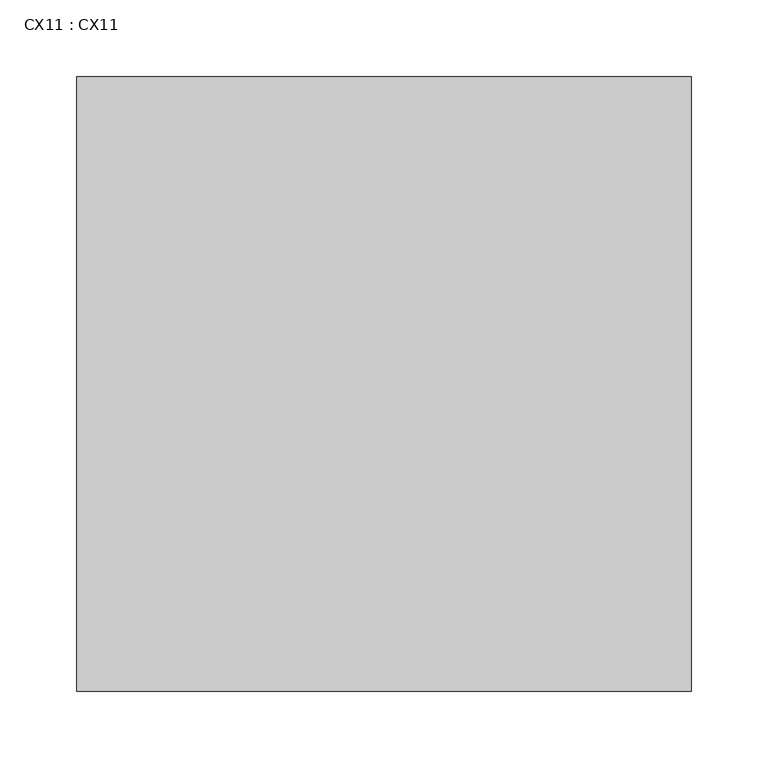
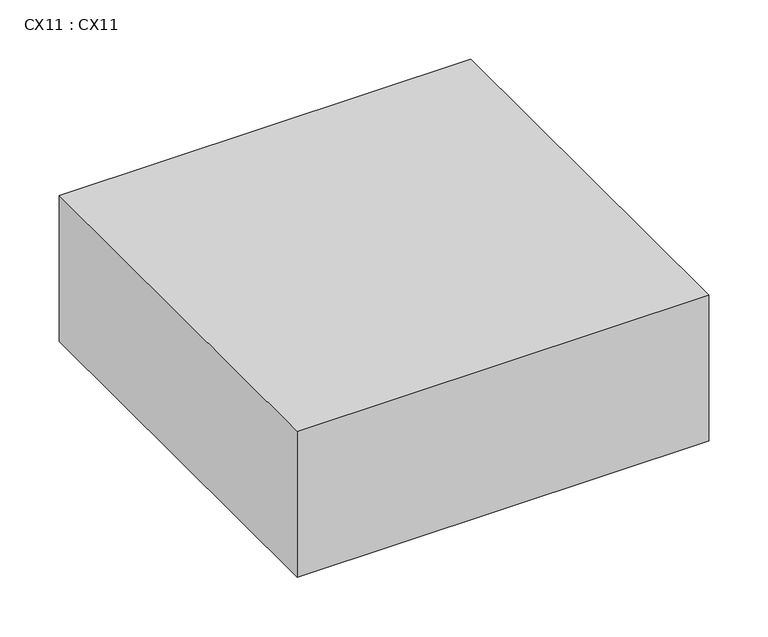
"""IFC4 building model written with IfcOpenShell, lengths in millimetres: proxy geometry, CX11 : CX11."""

from ifc_helpers import new_model, si_unit, frame, origin, place, context, project, spatial, polyline, outline, extrude, source, transform, mapped, element, save


def cx11_cx11_a36032b0(model_context):
    return source(origin(), model_context, "Body", "SweptSolid", [
        extrude(outline(polyline([(18401.7, 14966.3), (18801.7, 14966.3), (18801.7, 14566.3), (18401.7, 14566.3), (18401.7, 14966.3)])), frame((0.0, 0.0, 2870.0), z_axis=(0.0, 0.0, 1.0), x_axis=(1.0, 0.0, 0.0)), (0.0, 0.0, 1.0), 150.0),
    ])


if __name__ == "__main__":
    model = new_model("IFC4")
    model_context = context("Model", 3, world=origin())
    ifc_project = project(units=[si_unit("LENGTHUNIT", "METRE", prefix="MILLI")], contexts=[model_context])
    site = spatial("IfcSite", under=ifc_project)
    building = spatial("IfcBuilding", under=site)
    placement = place(None, origin())
    cx11_cx11_shape = cx11_cx11_a36032b0(model_context)
    element("IfcBuildingElementProxy", 1, Name="CX11 : CX11", ObjectType="CX11 : CX11", at=placement, inside=building, context=model_context, shape_type="MappedRepresentation", body=[
        mapped(cx11_cx11_shape, transform((0.0, 0.0, 0.0), x_axis=(1.0, 0.0, 0.0), y_axis=(0.0, 1.0, 0.0), z_axis=(0.0, 0.0, 1.0))),
    ])
    save(model, "model.ifc")
